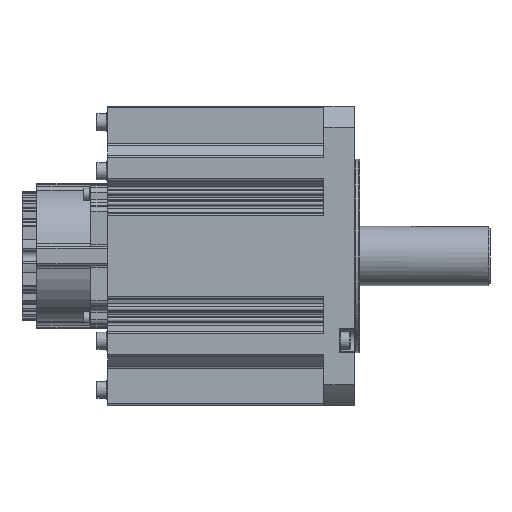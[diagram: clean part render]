
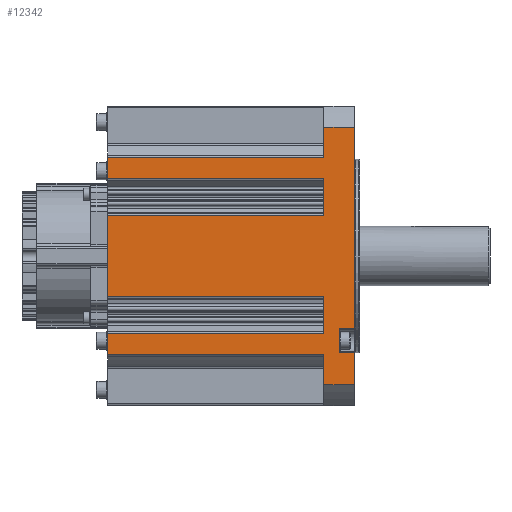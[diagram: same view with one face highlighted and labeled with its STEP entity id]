
A CAD part, front view. The second image highlights one B-rep face of the part: STEP entity #12342.
In plain terms, the highlighted planar face has unit normal (0, -1, 0).
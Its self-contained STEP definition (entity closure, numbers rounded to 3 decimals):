
#2591=ORIENTED_EDGE('',*,*,#5751,.T.);
#2592=ORIENTED_EDGE('',*,*,#5074,.F.);
#2593=ORIENTED_EDGE('',*,*,#5752,.F.);
#2594=ORIENTED_EDGE('',*,*,#5753,.T.);
#2595=ORIENTED_EDGE('',*,*,#5754,.T.);
#2596=ORIENTED_EDGE('',*,*,#5068,.F.);
#2597=ORIENTED_EDGE('',*,*,#5755,.F.);
#2598=ORIENTED_EDGE('',*,*,#5735,.F.);
#2599=ORIENTED_EDGE('',*,*,#5644,.T.);
#2600=ORIENTED_EDGE('',*,*,#5727,.T.);
#2601=ORIENTED_EDGE('',*,*,#5642,.F.);
#2602=ORIENTED_EDGE('',*,*,#5639,.F.);
#2603=ORIENTED_EDGE('',*,*,#5637,.T.);
#2604=ORIENTED_EDGE('',*,*,#5726,.T.);
#2605=ORIENTED_EDGE('',*,*,#5635,.F.);
#2606=ORIENTED_EDGE('',*,*,#5632,.F.);
#2607=ORIENTED_EDGE('',*,*,#5630,.T.);
#2608=ORIENTED_EDGE('',*,*,#5725,.T.);
#2609=ORIENTED_EDGE('',*,*,#5628,.F.);
#2610=ORIENTED_EDGE('',*,*,#5646,.F.);
#5068=EDGE_CURVE('',#6896,#6897,#8110,.T.);
#5074=EDGE_CURVE('',#6902,#6903,#8113,.T.);
#5628=EDGE_CURVE('',#7303,#7302,#8409,.T.);
#5630=EDGE_CURVE('',#7305,#7304,#8410,.T.);
#5632=EDGE_CURVE('',#7305,#7306,#8411,.T.);
#5635=EDGE_CURVE('',#7306,#7307,#8412,.T.);
#5637=EDGE_CURVE('',#7309,#7308,#8413,.T.);
#5639=EDGE_CURVE('',#7309,#7310,#8414,.T.);
#5642=EDGE_CURVE('',#7310,#7311,#8415,.T.);
#5644=EDGE_CURVE('',#7313,#7312,#8416,.T.);
#5646=EDGE_CURVE('',#7314,#7303,#8417,.T.);
#5725=EDGE_CURVE('',#7304,#7302,#8451,.T.);
#5726=EDGE_CURVE('',#7308,#7307,#8452,.T.);
#5727=EDGE_CURVE('',#7312,#7311,#8453,.T.);
#5735=EDGE_CURVE('',#7313,#7387,#8458,.T.);
#5751=EDGE_CURVE('',#7314,#6903,#8472,.T.);
#5752=EDGE_CURVE('',#7393,#6902,#8473,.T.);
#5753=EDGE_CURVE('',#7393,#7394,#8474,.T.);
#5754=EDGE_CURVE('',#7394,#6897,#8475,.T.);
#5755=EDGE_CURVE('',#7387,#6896,#8476,.T.);
#6896=VERTEX_POINT('',#18655);
#6897=VERTEX_POINT('',#18657);
#6902=VERTEX_POINT('',#18667);
#6903=VERTEX_POINT('',#18669);
#7302=VERTEX_POINT('',#19908);
#7303=VERTEX_POINT('',#19910);
#7304=VERTEX_POINT('',#19914);
#7305=VERTEX_POINT('',#19916);
#7306=VERTEX_POINT('',#19920);
#7307=VERTEX_POINT('',#19924);
#7308=VERTEX_POINT('',#19928);
#7309=VERTEX_POINT('',#19930);
#7310=VERTEX_POINT('',#19934);
#7311=VERTEX_POINT('',#19938);
#7312=VERTEX_POINT('',#19942);
#7313=VERTEX_POINT('',#19944);
#7314=VERTEX_POINT('',#19948);
#7387=VERTEX_POINT('',#20118);
#7393=VERTEX_POINT('',#20151);
#7394=VERTEX_POINT('',#20153);
#8110=LINE('',#18656,#9183);
#8113=LINE('',#18668,#9186);
#8409=LINE('',#19911,#9482);
#8410=LINE('',#19915,#9483);
#8411=LINE('',#19919,#9484);
#8412=LINE('',#19925,#9485);
#8413=LINE('',#19929,#9486);
#8414=LINE('',#19933,#9487);
#8415=LINE('',#19939,#9488);
#8416=LINE('',#19943,#9489);
#8417=LINE('',#19947,#9490);
#8451=LINE('',#20099,#9524);
#8452=LINE('',#20100,#9525);
#8453=LINE('',#20101,#9526);
#8458=LINE('',#20117,#9531);
#8472=LINE('',#20148,#9545);
#8473=LINE('',#20150,#9546);
#8474=LINE('',#20152,#9547);
#8475=LINE('',#20154,#9548);
#8476=LINE('',#20155,#9549);
#9183=VECTOR('',#14593,1000.);
#9186=VECTOR('',#14602,1000.);
#9482=VECTOR('',#15670,1000.);
#9483=VECTOR('',#15675,1000.);
#9484=VECTOR('',#15680,1000.);
#9485=VECTOR('',#15687,1000.);
#9486=VECTOR('',#15692,1000.);
#9487=VECTOR('',#15697,1000.);
#9488=VECTOR('',#15704,1000.);
#9489=VECTOR('',#15709,1000.);
#9490=VECTOR('',#15714,1000.);
#9524=VECTOR('',#15848,1000.);
#9525=VECTOR('',#15849,1000.);
#9526=VECTOR('',#15850,1000.);
#9531=VECTOR('',#15867,1000.);
#9545=VECTOR('',#15903,1000.);
#9546=VECTOR('',#15906,1000.);
#9547=VECTOR('',#15907,1000.);
#9548=VECTOR('',#15908,1000.);
#9549=VECTOR('',#15909,1000.);
#10382=EDGE_LOOP('',(#2591,#2592,#2593,#2594,#2595,#2596,#2597,#2598,#2599,
#2600,#2601,#2602,#2603,#2604,#2605,#2606,#2607,#2608,#2609,#2610));
#11225=FACE_BOUND('',#10382,.T.);
#11912=PLANE('',#13415);
#12342=ADVANCED_FACE('',(#11225),#11912,.T.);
#13415=AXIS2_PLACEMENT_3D('',#20149,#15904,#15905);
#14593=DIRECTION('',(0.,0.,-1.));
#14602=DIRECTION('',(0.,0.,-1.));
#15670=DIRECTION('',(-1.,0.,0.));
#15675=DIRECTION('',(-1.,0.,0.));
#15680=DIRECTION('',(0.,0.,1.));
#15687=DIRECTION('',(-1.,0.,0.));
#15692=DIRECTION('',(-1.,0.,0.));
#15697=DIRECTION('',(0.,0.,1.));
#15704=DIRECTION('',(-1.,0.,0.));
#15709=DIRECTION('',(-1.,0.,0.));
#15714=DIRECTION('',(0.,0.,1.));
#15848=DIRECTION('',(0.,0.,-1.));
#15849=DIRECTION('',(0.,0.,-1.));
#15850=DIRECTION('',(0.,0.,-1.));
#15867=DIRECTION('',(0.,0.,1.));
#15903=DIRECTION('',(1.,0.,0.));
#15904=DIRECTION('',(0.,-1.,0.));
#15905=DIRECTION('',(0.,0.,-1.));
#15906=DIRECTION('',(1.,0.,0.));
#15907=DIRECTION('',(0.,0.,1.));
#15908=DIRECTION('',(1.,0.,0.));
#15909=DIRECTION('',(1.,0.,0.));
#18655=CARTESIAN_POINT('',(0.,-88.3,75.996));
#18656=CARTESIAN_POINT('',(0.,-88.3,75.996));
#18657=CARTESIAN_POINT('',(0.,-88.3,-43.));
#18667=CARTESIAN_POINT('',(0.,-88.3,-57.));
#18668=CARTESIAN_POINT('',(0.,-88.3,75.996));
#18669=CARTESIAN_POINT('',(0.,-88.3,-75.996));
#19908=CARTESIAN_POINT('',(-145.5,-88.3,-58.));
#19910=CARTESIAN_POINT('',(-18.,-88.3,-58.));
#19911=CARTESIAN_POINT('',(-18.,-88.3,-58.));
#19914=CARTESIAN_POINT('',(-145.5,-88.3,-45.577));
#19915=CARTESIAN_POINT('',(-18.,-88.3,-45.577));
#19916=CARTESIAN_POINT('',(-18.,-88.3,-45.577));
#19919=CARTESIAN_POINT('',(-18.,-88.3,75.996));
#19920=CARTESIAN_POINT('',(-18.,-88.3,-24.));
#19924=CARTESIAN_POINT('',(-145.5,-88.3,-24.));
#19925=CARTESIAN_POINT('',(-18.,-88.3,-24.));
#19928=CARTESIAN_POINT('',(-145.5,-88.3,24.));
#19929=CARTESIAN_POINT('',(-18.,-88.3,24.));
#19930=CARTESIAN_POINT('',(-18.,-88.3,24.));
#19933=CARTESIAN_POINT('',(-18.,-88.3,75.996));
#19934=CARTESIAN_POINT('',(-18.,-88.3,45.577));
#19938=CARTESIAN_POINT('',(-145.5,-88.3,45.577));
#19939=CARTESIAN_POINT('',(-18.,-88.3,45.577));
#19942=CARTESIAN_POINT('',(-145.5,-88.3,58.));
#19943=CARTESIAN_POINT('',(-18.,-88.3,58.));
#19944=CARTESIAN_POINT('',(-18.,-88.3,58.));
#19947=CARTESIAN_POINT('',(-18.,-88.3,75.996));
#19948=CARTESIAN_POINT('',(-18.,-88.3,-75.996));
#20099=CARTESIAN_POINT('',(-145.5,-88.3,75.996));
#20100=CARTESIAN_POINT('',(-145.5,-88.3,75.996));
#20101=CARTESIAN_POINT('',(-145.5,-88.3,75.996));
#20117=CARTESIAN_POINT('',(-18.,-88.3,75.996));
#20118=CARTESIAN_POINT('',(-18.,-88.3,75.996));
#20148=CARTESIAN_POINT('',(-145.5,-88.3,-75.996));
#20149=CARTESIAN_POINT('',(-145.5,-88.3,75.996));
#20150=CARTESIAN_POINT('',(-9.,-88.3,-57.));
#20151=CARTESIAN_POINT('',(-9.,-88.3,-57.));
#20152=CARTESIAN_POINT('',(-9.,-88.3,75.996));
#20153=CARTESIAN_POINT('',(-9.,-88.3,-43.));
#20154=CARTESIAN_POINT('',(-9.,-88.3,-43.));
#20155=CARTESIAN_POINT('',(-145.5,-88.3,75.996));
